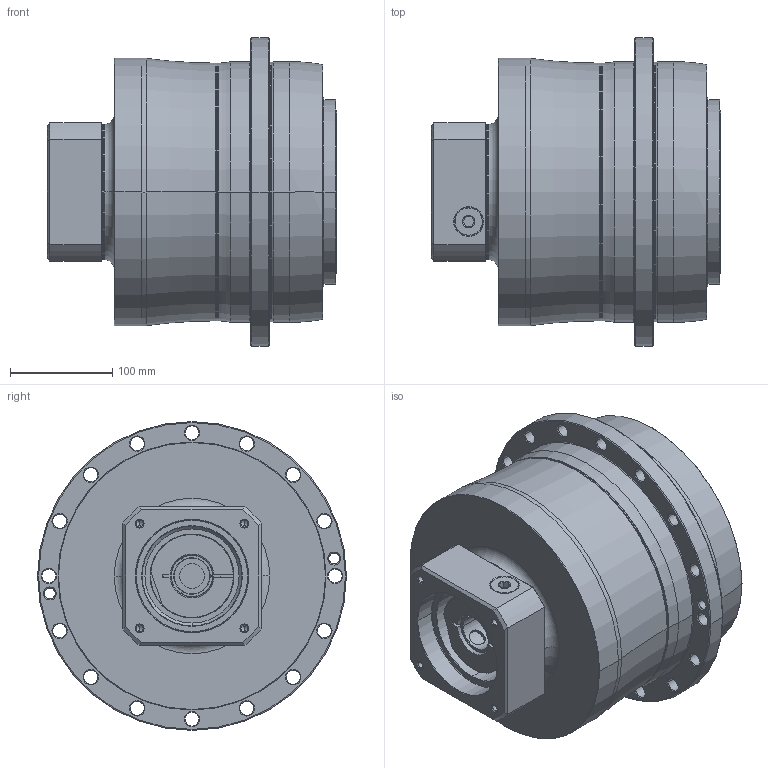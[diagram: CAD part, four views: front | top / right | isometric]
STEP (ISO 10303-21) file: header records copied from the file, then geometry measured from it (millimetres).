
FILE_DESCRIPTION((''),'2;1');
FILE_NAME('AH255_2ST_35-P0409800101_ASM','2016-08-15T',('d01943'),(''),'PRO/ENGINEER BY PARAMETRIC TECHNOLOGY CORPORATION, 2008410','PRO/ENGINEER BY PARAMETRIC TECHNOLOGY CORPORATION, 2008410','');
FILE_SCHEMA(('CONFIG_CONTROL_DESIGN'));
Length unit declared in the file: millimetre
Products named in the file (8): P0278700003; P0359700003; P1317700101; P0409800101; P0503800012; P0912601001; 21711422019; AH255_2ST_35-P0409800101_ASM
Assembly tree (7 placements, depth 2):
  AH255_2ST_35-P0409800101_ASM
    P0278700003
    P0359700003
    P1317700101
    P0409800101
    P0503800012
    P0912601001
    21711422019
Bounding box: 283 x 302 x 302 mm (x, y, z)
Volume: 11304141.2 mm3; surface area: 722688.9 mm2
Topology: 8 solids, 8 shells, 579 faces, 1341 edges, 783 vertices
Faces by surface type: cylinder 218, cone 192, plane 95, torus 60, bspline 14
Entity records: 20904 total; most frequent: CARTESIAN_POINT 7453, DIRECTION 3045, ORIENTED_EDGE 2590, EDGE_CURVE 1295, AXIS2_PLACEMENT_3D 1282, VERTEX_POINT 783, CIRCLE 702, EDGE_LOOP 680
